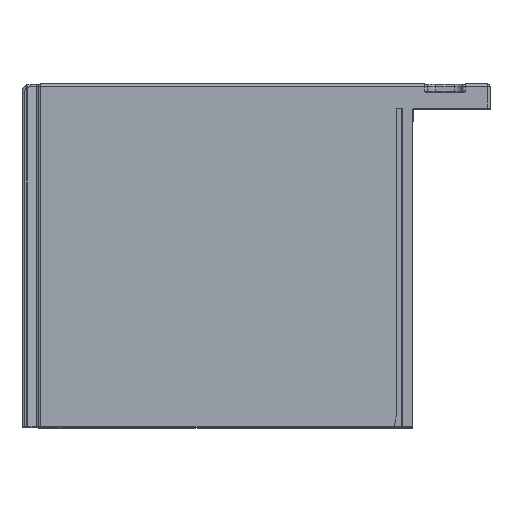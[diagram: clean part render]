
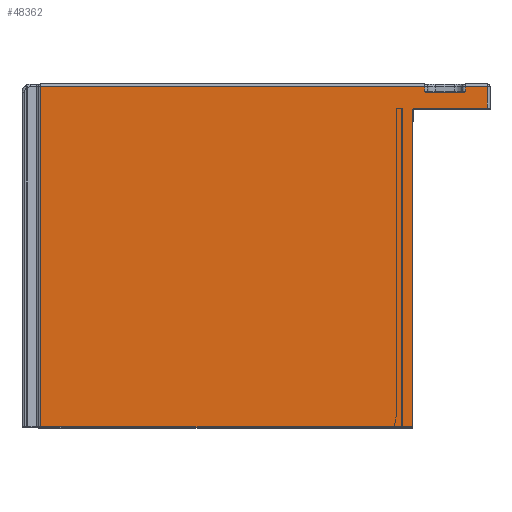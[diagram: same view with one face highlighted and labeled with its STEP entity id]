
A CAD part, top view. The second image highlights one B-rep face of the part: STEP entity #48362.
In plain terms, the highlighted planar face has unit normal (0, 0, 1).
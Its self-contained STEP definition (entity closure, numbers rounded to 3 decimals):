
#2=DIRECTION('',(1.,0.,0.));
#3=VECTOR('',#2,27.);
#4=CARTESIAN_POINT('',(-153.2,38.,105.));
#5=LINE('',#4,#3);
#6=DIRECTION('',(0.,1.,0.));
#7=VECTOR('',#6,118.);
#8=CARTESIAN_POINT('',(-154.2,-81.,105.));
#9=LINE('',#8,#7);
#10=DIRECTION('',(-1.,0.,0.));
#11=VECTOR('',#10,138.8);
#12=CARTESIAN_POINT('',(-154.2,-81.,105.));
#13=LINE('',#12,#11);
#14=DIRECTION('',(0.,-1.,0.));
#15=VECTOR('',#14,127.);
#16=CARTESIAN_POINT('',(-293.,46.,105.));
#17=LINE('',#16,#15);
#18=DIRECTION('',(-1.,0.,0.));
#19=VECTOR('',#18,143.5);
#20=CARTESIAN_POINT('',(-149.5,46.,105.));
#21=LINE('',#20,#19);
#22=DIRECTION('',(0.,1.,0.));
#23=VECTOR('',#22,1.8);
#24=CARTESIAN_POINT('',(-149.5,44.2,105.));
#25=LINE('',#24,#23);
#26=CARTESIAN_POINT('',(-149.202,44.,105.));
#27=CARTESIAN_POINT('',(-149.157,43.973,105.));
#28=CARTESIAN_POINT('',(-149.07,43.924,105.));
#29=CARTESIAN_POINT('',(-148.95,43.87,105.));
#30=CARTESIAN_POINT('',(-148.834,43.831,105.));
#31=CARTESIAN_POINT('',(-148.724,43.807,105.));
#32=CARTESIAN_POINT('',(-148.645,43.8,105.));
#33=CARTESIAN_POINT('',(-148.606,43.8,105.));
#35=DIRECTION('',(1.,0.,0.));
#36=VECTOR('',#35,13.211);
#37=CARTESIAN_POINT('',(-148.606,43.8,105.));
#38=LINE('',#37,#36);
#39=CARTESIAN_POINT('',(-135.394,43.8,105.));
#40=CARTESIAN_POINT('',(-135.366,43.8,105.));
#41=CARTESIAN_POINT('',(-135.308,43.803,105.));
#42=CARTESIAN_POINT('',(-135.213,43.819,105.));
#43=CARTESIAN_POINT('',(-135.117,43.846,105.));
#44=CARTESIAN_POINT('',(-135.017,43.884,105.));
#45=CARTESIAN_POINT('',(-134.912,43.934,105.));
#46=CARTESIAN_POINT('',(-134.836,43.977,105.));
#47=CARTESIAN_POINT('',(-134.798,44.,105.));
#49=DIRECTION('',(0.,-1.,0.));
#50=VECTOR('',#49,1.8);
#51=CARTESIAN_POINT('',(-134.5,46.,105.));
#52=LINE('',#51,#50);
#53=DIRECTION('',(-1.,0.,0.));
#54=VECTOR('',#53,8.3);
#55=CARTESIAN_POINT('',(-126.2,46.,105.));
#56=LINE('',#55,#54);
#57=DIRECTION('',(0.,1.,0.));
#58=VECTOR('',#57,8.);
#59=CARTESIAN_POINT('',(-126.2,38.,105.));
#60=LINE('',#59,#58);
#320=CARTESIAN_POINT('',(-153.2,37.,105.));
#321=DIRECTION('',(0.,0.,-1.));
#322=DIRECTION('',(-1.,0.,0.));
#323=AXIS2_PLACEMENT_3D('',#320,#321,#322);
#34052=CARTESIAN_POINT('',(-149.5,44.2,105.));
#34053=CARTESIAN_POINT('',(-149.464,44.174,
105.));
#34054=CARTESIAN_POINT('',(-149.394,44.125,
105.));
#34055=CARTESIAN_POINT('',(-149.295,44.058,
105.));
#34056=CARTESIAN_POINT('',(-149.233,44.018,
105.));
#34057=CARTESIAN_POINT('',(-149.202,44.,105.));
#34081=CARTESIAN_POINT('',(-134.798,44.,105.));
#34082=CARTESIAN_POINT('',(-134.768,44.018,
105.));
#34083=CARTESIAN_POINT('',(-134.706,44.057,
105.));
#34084=CARTESIAN_POINT('',(-134.607,44.124,
105.));
#34085=CARTESIAN_POINT('',(-134.537,44.174,
105.));
#34086=CARTESIAN_POINT('',(-134.5,44.2,105.));
#37688=CARTESIAN_POINT('',(-154.2,-81.,105.));
#37689=VERTEX_POINT('',#37688);
#38492=CARTESIAN_POINT('',(-293.,-81.,105.));
#38494=VERTEX_POINT('',#38492);
#38548=CARTESIAN_POINT('',(-293.,46.,105.));
#38549=VERTEX_POINT('',#38548);
#38556=CARTESIAN_POINT('',(-149.5,46.,105.));
#38557=VERTEX_POINT('',#38556);
#38561=CARTESIAN_POINT('',(-153.2,38.,105.));
#38563=VERTEX_POINT('',#38561);
#38565=CARTESIAN_POINT('',(-154.2,37.,105.));
#38567=VERTEX_POINT('',#38565);
#39530=CARTESIAN_POINT('',(-126.2,46.,105.));
#39531=CARTESIAN_POINT('',(-134.5,46.,105.));
#39532=VERTEX_POINT('',#39530);
#39533=VERTEX_POINT('',#39531);
#39539=CARTESIAN_POINT('',(-149.5,44.2,105.));
#39541=VERTEX_POINT('',#39539);
#39568=CARTESIAN_POINT('',(-134.5,44.2,105.));
#39569=VERTEX_POINT('',#39568);
#42038=CARTESIAN_POINT('',(-148.606,43.8,105.));
#42039=CARTESIAN_POINT('',(-135.394,43.8,105.));
#42040=VERTEX_POINT('',#42038);
#42041=VERTEX_POINT('',#42039);
#42042=VERTEX_POINT('',#26);
#42043=VERTEX_POINT('',#47);
#46487=CARTESIAN_POINT('',(-126.2,38.,105.));
#46489=VERTEX_POINT('',#46487);
#48325=CARTESIAN_POINT('',(0.,0.,105.));
#48326=DIRECTION('',(0.,0.,1.));
#48327=DIRECTION('',(1.,0.,0.));
#48328=AXIS2_PLACEMENT_3D('',#48325,#48326,#48327);
#48329=PLANE('',#48328);
#48331=ORIENTED_EDGE('',*,*,#48330,.F.);
#48333=ORIENTED_EDGE('',*,*,#48332,.F.);
#48335=ORIENTED_EDGE('',*,*,#48334,.F.);
#48337=ORIENTED_EDGE('',*,*,#48336,.T.);
#48339=ORIENTED_EDGE('',*,*,#48338,.F.);
#48341=ORIENTED_EDGE('',*,*,#48340,.F.);
#48343=ORIENTED_EDGE('',*,*,#48342,.F.);
#48345=ORIENTED_EDGE('',*,*,#48344,.T.);
#48347=ORIENTED_EDGE('',*,*,#48346,.T.);
#48349=ORIENTED_EDGE('',*,*,#48348,.T.);
#48351=ORIENTED_EDGE('',*,*,#48350,.T.);
#48353=ORIENTED_EDGE('',*,*,#48352,.T.);
#48355=ORIENTED_EDGE('',*,*,#48354,.F.);
#48357=ORIENTED_EDGE('',*,*,#48356,.F.);
#48359=ORIENTED_EDGE('',*,*,#48358,.F.);
#48360=EDGE_LOOP('',(#48331,#48333,#48335,#48337,#48339,#48341,#48343,#48345,
#48347,#48349,#48351,#48353,#48355,#48357,#48359));
#48361=FACE_OUTER_BOUND('',#48360,.F.);
#48362=ADVANCED_FACE('',(#48361),#48329,.T.);
#34=B_SPLINE_CURVE_WITH_KNOTS('',3,(#26,#27,#28,#29,#30,#31,#32,#33),
.UNSPECIFIED.,.F.,.F.,(4,1,1,1,1,4),(0.,0.2,0.4,0.6,0.8,1.),
.UNSPECIFIED.);
#48=B_SPLINE_CURVE_WITH_KNOTS('',3,(#39,#40,#41,#42,#43,#44,#45,#46,#47),
.UNSPECIFIED.,.F.,.F.,(4,1,1,1,1,1,4),(0.,0.167,0.333,
0.5,0.667,0.833,1.),.UNSPECIFIED.);
#324=CIRCLE('',#323,1.);
#34058=B_SPLINE_CURVE_WITH_KNOTS('',3,(#34052,#34053,#34054,#34055,#34056,
#34057),.UNSPECIFIED.,.F.,.F.,(4,1,1,4),(0.,0.333,
0.667,1.),.UNSPECIFIED.);
#34087=B_SPLINE_CURVE_WITH_KNOTS('',3,(#34081,#34082,#34083,#34084,#34085,
#34086),.UNSPECIFIED.,.F.,.F.,(4,1,1,4),(0.,0.333,
0.667,1.),.UNSPECIFIED.);
#48330=EDGE_CURVE('',#38563,#46489,#5,.T.);
#48332=EDGE_CURVE('',#38567,#38563,#324,.T.);
#48334=EDGE_CURVE('',#37689,#38567,#9,.T.);
#48336=EDGE_CURVE('',#37689,#38494,#13,.T.);
#48338=EDGE_CURVE('',#38549,#38494,#17,.T.);
#48340=EDGE_CURVE('',#38557,#38549,#21,.T.);
#48342=EDGE_CURVE('',#39541,#38557,#25,.T.);
#48344=EDGE_CURVE('',#39541,#42042,#34058,.T.);
#48346=EDGE_CURVE('',#42042,#42040,#34,.T.);
#48348=EDGE_CURVE('',#42040,#42041,#38,.T.);
#48350=EDGE_CURVE('',#42041,#42043,#48,.T.);
#48352=EDGE_CURVE('',#42043,#39569,#34087,.T.);
#48354=EDGE_CURVE('',#39533,#39569,#52,.T.);
#48356=EDGE_CURVE('',#39532,#39533,#56,.T.);
#48358=EDGE_CURVE('',#46489,#39532,#60,.T.);
